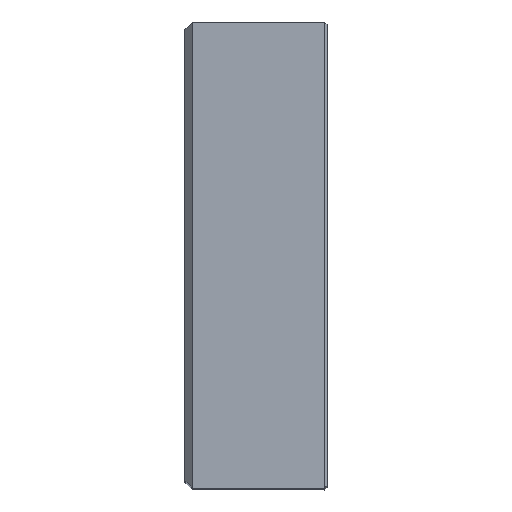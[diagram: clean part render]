
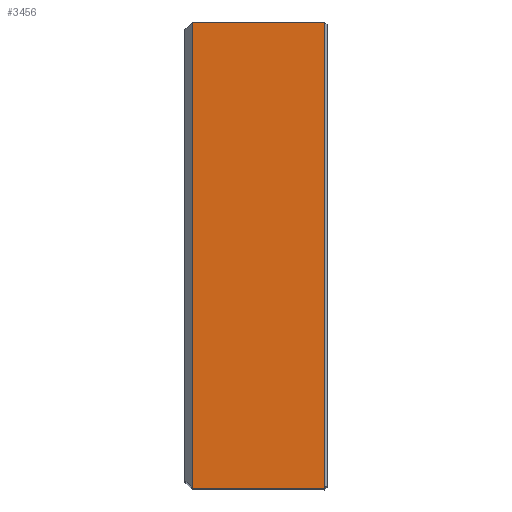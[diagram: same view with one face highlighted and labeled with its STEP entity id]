
A CAD part, top view. The second image highlights one B-rep face of the part: STEP entity #3456.
In plain terms, the highlighted planar face has unit normal (0, 0, 1).
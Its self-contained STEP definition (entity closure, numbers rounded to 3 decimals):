
#295=VERTEX_POINT(' ',#296);
#296=CARTESIAN_POINT('',(54.,-90.,0.));
#305=VERTEX_POINT(' ',#306);
#306=CARTESIAN_POINT('',(54.,90.,0.));
#339=VERTEX_POINT(' ',#340);
#340=CARTESIAN_POINT('',(3.,-90.,0.));
#347=VERTEX_POINT(' ',#348);
#348=CARTESIAN_POINT('',(3.,90.,0.));
#1671=LINE('',#1672,#1673);
#1672=CARTESIAN_POINT('',(54.,95.657,0.));
#1673=VECTOR('',#1674,1.);
#1674=DIRECTION('',(0.,-1.,0.));
#1675=EDGE_CURVE(' ',#305,#295,#1671,.T.);
#1835=LINE('',#1836,#1837);
#1836=CARTESIAN_POINT('',(55.12,-90.,0.));
#1837=VECTOR('',#1838,1.);
#1838=DIRECTION('',(-1.,0.,0.));
#1839=EDGE_CURVE(' ',#295,#339,#1835,.T.);
#1874=LINE('',#1875,#1876);
#1875=CARTESIAN_POINT('',(3.,-103.971,0.));
#1876=VECTOR('',#1877,1.);
#1877=DIRECTION('',(0.,1.,0.));
#1878=EDGE_CURVE(' ',#339,#347,#1874,.T.);
#1879=LINE('',#1880,#1881);
#1880=CARTESIAN_POINT('',(55.12,90.,0.));
#1881=VECTOR('',#1882,1.);
#1882=DIRECTION('',(-1.,0.,0.));
#1883=EDGE_CURVE(' ',#305,#347,#1879,.T.);
#3445=ORIENTED_EDGE('',*,*,#1878,.F.);
#3446=ORIENTED_EDGE('',*,*,#1839,.F.);
#3447=ORIENTED_EDGE('',*,*,#1675,.F.);
#3448=ORIENTED_EDGE('',*,*,#1883,.T.);
#3449=EDGE_LOOP('',(#3445,#3446,#3447,#3448));
#3450=FACE_OUTER_BOUND('',#3449,.T.);
#3451=PLANE('',#3452);
#3452=AXIS2_PLACEMENT_3D('',#3453,#3454,#3455);
#3453=CARTESIAN_POINT('',(0.,-90.,0.));
#3454=DIRECTION('',(0.,0.,1.));
#3455=DIRECTION('',(0.,1.,0.));
#3456=ADVANCED_FACE('',(#3450),#3451,.T.);
